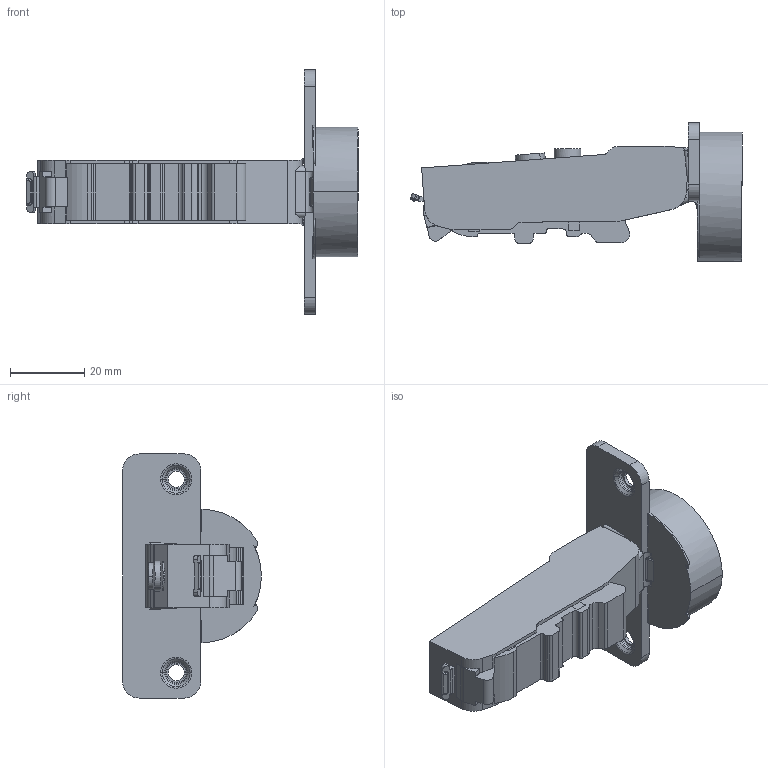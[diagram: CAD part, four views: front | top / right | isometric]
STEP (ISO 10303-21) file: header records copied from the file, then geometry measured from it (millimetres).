
FILE_DESCRIPTION (( 'STEP AP203' ), '1' );
FILE_NAME ('C81B817FAB DTC 3D CLOSE.STEP', '2024-07-19T07:56:50', ( '微软用户' ), ( '微软中国' ), 'SwSTEP 2.0', 'SolidWorks 2021', '' );
FILE_SCHEMA (( 'CONFIG_CONTROL_DESIGN' ));
Length unit declared in the file: millimetre
Products named in the file (1): C81B817FAB DTC 3D CLOSE
Bounding box: 89.24 x 37.3 x 65.6 mm (x, y, z)
Volume: 38810.1 mm3; surface area: 11528.7 mm2
Topology: 1 solids, 1 shells, 350 faces, 1016 edges, 667 vertices
Faces by surface type: plane 145, cylinder 136, torus 36, bspline 21, cone 12
Entity records: 12394 total; most frequent: CARTESIAN_POINT 3152, ORIENTED_EDGE 2032, DIRECTION 1838, EDGE_CURVE 1016, VERTEX_POINT 667, AXIS2_PLACEMENT_3D 654, VECTOR 530, LINE 530
